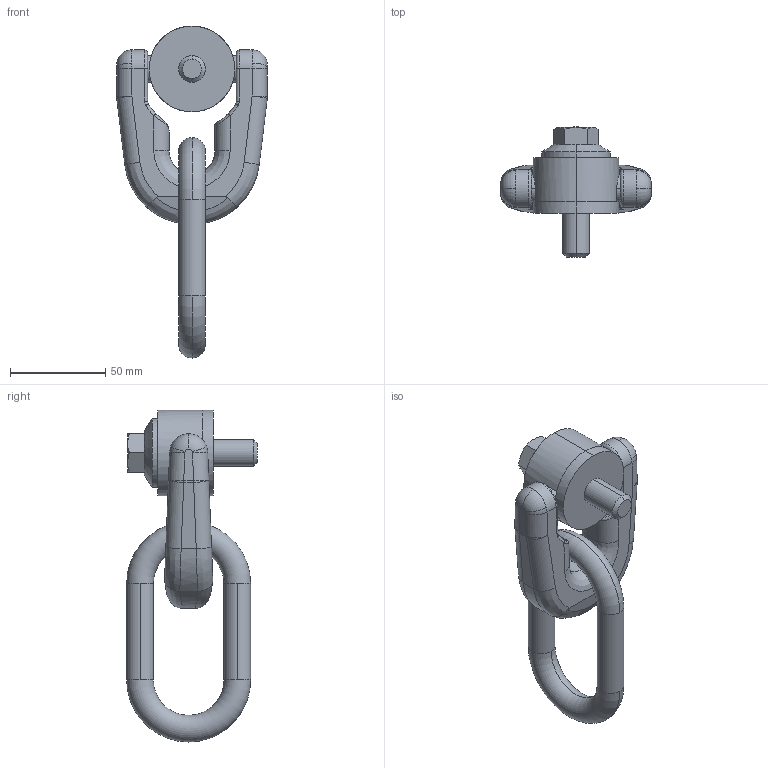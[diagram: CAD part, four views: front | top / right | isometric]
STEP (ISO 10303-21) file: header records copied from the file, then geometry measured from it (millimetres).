
FILE_DESCRIPTION (( 'STEP AP203' ), '1' );
FILE_NAME ('63150.W0014.step', '2013-12-13T11:51:12', ( 'User' ), ( '' ), 'SwSTEP 2.0', 'SolidWorks 2009', '' );
FILE_SCHEMA (( 'CONFIG_CONTROL_DESIGN' ));
Length unit declared in the file: millimetre
Products named in the file (4): Part1_63150.W0014; Part2B; Part3_63150.W0014; 63150.W0014
Assembly tree (3 placements, depth 2):
  63150.W0014
    Part2B
    Part1_63150.W0014
    Part3_63150.W0014
Bounding box: 79 x 68.5 x 174 mm (x, y, z)
Volume: 176800.9 mm3; surface area: 38372.8 mm2
Topology: 3 solids, 3 shells, 133 faces, 317 edges, 190 vertices
Faces by surface type: cylinder 41, bspline 33, plane 33, torus 12, cone 10, sphere 4
Entity records: 5940 total; most frequent: CARTESIAN_POINT 2688, ORIENTED_EDGE 630, DIRECTION 574, EDGE_CURVE 315, AXIS2_PLACEMENT_3D 233, VERTEX_POINT 190, EDGE_LOOP 139, ADVANCED_FACE 133
